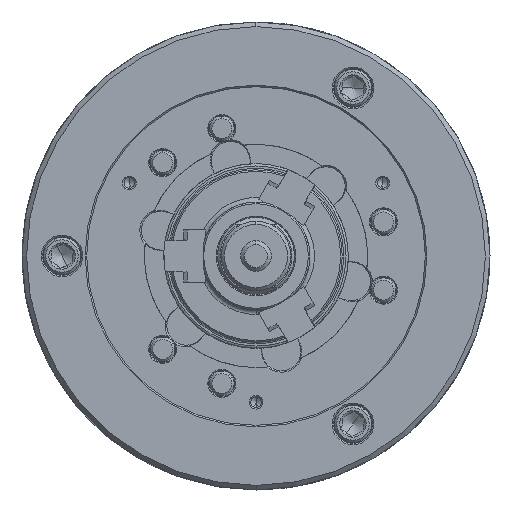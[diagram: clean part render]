
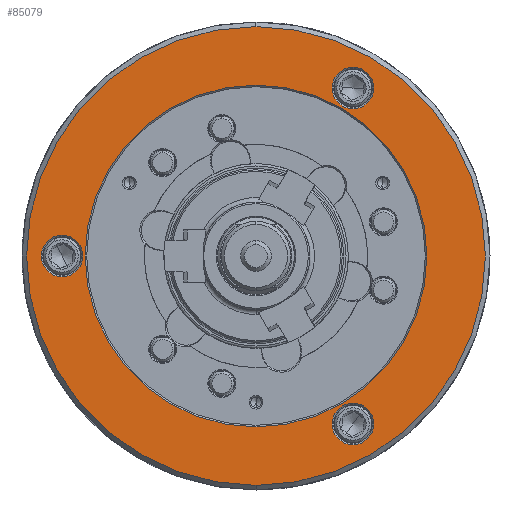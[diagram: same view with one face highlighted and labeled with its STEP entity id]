
A CAD part, left-side view. The second image highlights one B-rep face of the part: STEP entity #85079.
In plain terms, the highlighted planar face has unit normal (-1, 0, 0).
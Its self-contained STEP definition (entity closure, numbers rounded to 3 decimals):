
#687 = ORIENTED_EDGE ( 'NONE', *, *, #69115, .F. ) ;
#2230 = ORIENTED_EDGE ( 'NONE', *, *, #97095, .T. ) ;
#5071 = DIRECTION ( 'NONE',  ( 0., 0., -1. ) ) ;
#5995 = CARTESIAN_POINT ( 'NONE',  ( -106., 126., -13.5 ) ) ;
#6631 = CARTESIAN_POINT ( 'NONE',  ( -106., 0., 0. ) ) ;
#7304 = DIRECTION ( 'NONE',  ( 1., 0., 0. ) ) ;
#12743 = AXIS2_PLACEMENT_3D ( 'NONE', #65094, #102354, #18645 ) ;
#13378 = CIRCLE ( 'NONE', #114474, 13.5 ) ;
#14107 = DIRECTION ( 'NONE',  ( 0., 0., -1. ) ) ;
#18242 = EDGE_CURVE ( 'NONE', #120637, #53628, #119322, .T. ) ;
#18645 = DIRECTION ( 'NONE',  ( 0., 0., -1. ) ) ;
#21182 = DIRECTION ( 'NONE',  ( 1., 0., 0. ) ) ;
#21394 = CARTESIAN_POINT ( 'NONE',  ( -106., 0., 149. ) ) ;
#22277 = DIRECTION ( 'NONE',  ( 1., 0., 0. ) ) ;
#23036 = CARTESIAN_POINT ( 'NONE',  ( -106., 0., 111. ) ) ;
#23377 = ORIENTED_EDGE ( 'NONE', *, *, #102995, .T. ) ;
#24026 = DIRECTION ( 'NONE',  ( 1., 0., 0. ) ) ;
#24631 = DIRECTION ( 'NONE',  ( 1., 0., 0. ) ) ;
#25238 = FACE_BOUND ( 'NONE', #31290, .T. ) ;
#26211 = VERTEX_POINT ( 'NONE', #93157 ) ;
#28482 = CARTESIAN_POINT ( 'NONE',  ( -106., -63., 109.119 ) ) ;
#28513 = DIRECTION ( 'NONE',  ( 0., 0., -1. ) ) ;
#30486 = CARTESIAN_POINT ( 'NONE',  ( -106., 0., -149. ) ) ;
#30673 = ORIENTED_EDGE ( 'NONE', *, *, #66842, .T. ) ;
#31290 = EDGE_LOOP ( 'NONE', ( #66135, #66584 ) ) ;
#32283 = CIRCLE ( 'NONE', #12743, 149. ) ;
#32438 = CARTESIAN_POINT ( 'NONE',  ( -106., -63., -109.119 ) ) ;
#34482 = CARTESIAN_POINT ( 'NONE',  ( -106., -63., 122.619 ) ) ;
#34988 = VERTEX_POINT ( 'NONE', #34482 ) ;
#41795 = DIRECTION ( 'NONE',  ( 0., 0., -1. ) ) ;
#42516 = AXIS2_PLACEMENT_3D ( 'NONE', #87581, #107749, #107148 ) ;
#42949 = FACE_BOUND ( 'NONE', #110535, .T. ) ;
#43697 = VERTEX_POINT ( 'NONE', #99559 ) ;
#43854 = DIRECTION ( 'NONE',  ( 1., 0., 0. ) ) ;
#44464 = CARTESIAN_POINT ( 'NONE',  ( -106., -63., -109.119 ) ) ;
#44804 = VERTEX_POINT ( 'NONE', #30486 ) ;
#45983 = AXIS2_PLACEMENT_3D ( 'NONE', #44464, #43854, #88048 ) ;
#46470 = DIRECTION ( 'NONE',  ( 0., 0., -1. ) ) ;
#48613 = ORIENTED_EDGE ( 'NONE', *, *, #60075, .T. ) ;
#50386 = VERTEX_POINT ( 'NONE', #21394 ) ;
#52200 = VERTEX_POINT ( 'NONE', #5995 ) ;
#53628 = VERTEX_POINT ( 'NONE', #23036 ) ;
#53662 = EDGE_LOOP ( 'NONE', ( #687, #94564 ) ) ;
#55127 = CARTESIAN_POINT ( 'NONE',  ( -106., 126., 0. ) ) ;
#58900 = FACE_BOUND ( 'NONE', #89180, .T. ) ;
#59242 = CIRCLE ( 'NONE', #72930, 13.5 ) ;
#60004 = ORIENTED_EDGE ( 'NONE', *, *, #119676, .T. ) ;
#60075 = EDGE_CURVE ( 'NONE', #26211, #34988, #59242, .T. ) ;
#61515 = CIRCLE ( 'NONE', #65319, 13.5 ) ;
#65094 = CARTESIAN_POINT ( 'NONE',  ( -106., 0., 0. ) ) ;
#65319 = AXIS2_PLACEMENT_3D ( 'NONE', #32438, #7304, #14107 ) ;
#66135 = ORIENTED_EDGE ( 'NONE', *, *, #99586, .T. ) ;
#66584 = ORIENTED_EDGE ( 'NONE', *, *, #18242, .T. ) ;
#66842 = EDGE_CURVE ( 'NONE', #107519, #52200, #13378, .T. ) ;
#67285 = AXIS2_PLACEMENT_3D ( 'NONE', #77826, #24026, #5071 ) ;
#67533 = EDGE_LOOP ( 'NONE', ( #30673, #115551 ) ) ;
#68191 = DIRECTION ( 'NONE',  ( 1., 0., 0. ) ) ;
#69115 = EDGE_CURVE ( 'NONE', #44804, #50386, #32283, .T. ) ;
#69482 = CIRCLE ( 'NONE', #45983, 13.5 ) ;
#69941 = CARTESIAN_POINT ( 'NONE',  ( -106., 0., 0. ) ) ;
#70487 = PLANE ( 'NONE',  #42516 ) ;
#70977 = CARTESIAN_POINT ( 'NONE',  ( -106., 0., -111. ) ) ;
#71687 = DIRECTION ( 'NONE',  ( 0., 0., -1. ) ) ;
#71694 = FACE_BOUND ( 'NONE', #67533, .T. ) ;
#72930 = AXIS2_PLACEMENT_3D ( 'NONE', #92910, #94112, #46470 ) ;
#74383 = CARTESIAN_POINT ( 'NONE',  ( -106., 0., 0. ) ) ;
#77568 = CIRCLE ( 'NONE', #100885, 111. ) ;
#77826 = CARTESIAN_POINT ( 'NONE',  ( -106., 126., 0. ) ) ;
#80595 = DIRECTION ( 'NONE',  ( 1., 0., 0. ) ) ;
#80824 = EDGE_CURVE ( 'NONE', #50386, #44804, #94288, .T. ) ;
#81881 = VERTEX_POINT ( 'NONE', #119223 ) ;
#83864 = AXIS2_PLACEMENT_3D ( 'NONE', #28482, #68191, #113405 ) ;
#85079 = ADVANCED_FACE ( 'NONE', ( #58900, #42949, #71694, #88184, #25238 ), #70487, .F. ) ;
#87581 = CARTESIAN_POINT ( 'NONE',  ( -106., -111., 0. ) ) ;
#88048 = DIRECTION ( 'NONE',  ( 0., 0., -1. ) ) ;
#88184 = FACE_OUTER_BOUND ( 'NONE', #53662, .T. ) ;
#89180 = EDGE_LOOP ( 'NONE', ( #23377, #48613 ) ) ;
#89731 = CIRCLE ( 'NONE', #83864, 13.5 ) ;
#90356 = AXIS2_PLACEMENT_3D ( 'NONE', #6631, #80595, #100103 ) ;
#92910 = CARTESIAN_POINT ( 'NONE',  ( -106., -63., 109.119 ) ) ;
#93157 = CARTESIAN_POINT ( 'NONE',  ( -106., -63., 95.619 ) ) ;
#94112 = DIRECTION ( 'NONE',  ( 1., 0., 0. ) ) ;
#94288 = CIRCLE ( 'NONE', #90356, 149. ) ;
#94564 = ORIENTED_EDGE ( 'NONE', *, *, #80824, .F. ) ;
#95960 = AXIS2_PLACEMENT_3D ( 'NONE', #74383, #21182, #28513 ) ;
#97095 = EDGE_CURVE ( 'NONE', #43697, #81881, #61515, .T. ) ;
#99559 = CARTESIAN_POINT ( 'NONE',  ( -106., -63., -122.619 ) ) ;
#99586 = EDGE_CURVE ( 'NONE', #53628, #120637, #77568, .T. ) ;
#100103 = DIRECTION ( 'NONE',  ( 0., 0., -1. ) ) ;
#100885 = AXIS2_PLACEMENT_3D ( 'NONE', #69941, #22277, #41795 ) ;
#102354 = DIRECTION ( 'NONE',  ( 1., 0., 0. ) ) ;
#102995 = EDGE_CURVE ( 'NONE', #34988, #26211, #89731, .T. ) ;
#107148 = DIRECTION ( 'NONE',  ( 0., 0., -1. ) ) ;
#107519 = VERTEX_POINT ( 'NONE', #114652 ) ;
#107749 = DIRECTION ( 'NONE',  ( 1., 0., 0. ) ) ;
#110535 = EDGE_LOOP ( 'NONE', ( #60004, #2230 ) ) ;
#113405 = DIRECTION ( 'NONE',  ( 0., 0., -1. ) ) ;
#114474 = AXIS2_PLACEMENT_3D ( 'NONE', #55127, #24631, #71687 ) ;
#114652 = CARTESIAN_POINT ( 'NONE',  ( -106., 126., 13.5 ) ) ;
#115551 = ORIENTED_EDGE ( 'NONE', *, *, #117414, .T. ) ;
#117414 = EDGE_CURVE ( 'NONE', #52200, #107519, #119960, .T. ) ;
#119223 = CARTESIAN_POINT ( 'NONE',  ( -106., -63., -95.619 ) ) ;
#119322 = CIRCLE ( 'NONE', #95960, 111. ) ;
#119676 = EDGE_CURVE ( 'NONE', #81881, #43697, #69482, .T. ) ;
#119960 = CIRCLE ( 'NONE', #67285, 13.5 ) ;
#120637 = VERTEX_POINT ( 'NONE', #70977 ) ;
